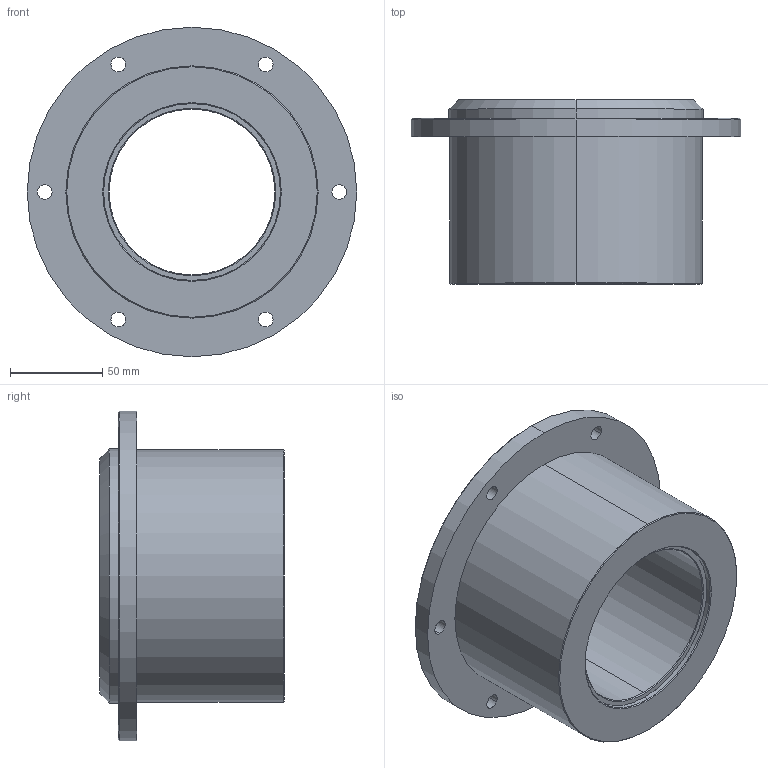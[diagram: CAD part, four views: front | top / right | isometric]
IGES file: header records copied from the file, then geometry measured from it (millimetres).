
Start section: 3D InterOp IGES (Version 20 0 1), Spatial Corp. Copyright (c) 1999-2007.
Global section: file name: 10.13.09.igs; native system: Spatial Corp.; preprocessor: 3D InterOp GENERIC/IGES 3.0; author: Noname; organization: Noname; date: 20111110.165137; units: metre
Bounding box: 179 x 100 x 179 mm (x, y, z)
Surface area: 170882.2 mm2 (no closed solid volume)
Topology: 0 solids, 0 shells, 86 faces, 1421 edges, 2434 vertices
Faces by surface type: revolution 72, extrusion 14
